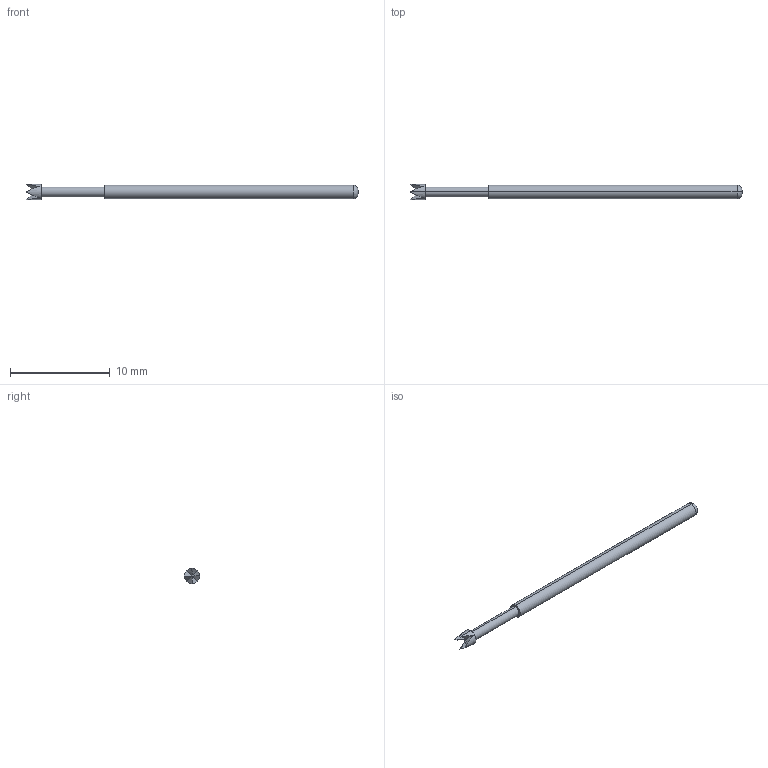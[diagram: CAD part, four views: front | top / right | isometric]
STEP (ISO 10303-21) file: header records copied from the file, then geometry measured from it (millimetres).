
FILE_DESCRIPTION (( 'STEP AP203' ), '1' );
FILE_NAME ('IP130B-1Q.STEP', '2014-08-22T05:49:36', ( '' ), ( '' ), 'SwSTEP 2.0', 'SolidWorks 2011', '' );
FILE_SCHEMA (( 'CONFIG_CONTROL_DESIGN' ));
Length unit declared in the file: millimetre
Products named in the file (1): IP130B-1Q
Bounding box: 33.27 x 1.52 x 1.52 mm (x, y, z)
Volume: 43.7 mm3; surface area: 140 mm2
Topology: 1 solids, 1 shells, 19 faces, 36 edges, 21 vertices
Faces by surface type: bspline 8, cylinder 6, plane 3, torus 2
Entity records: 649 total; most frequent: CARTESIAN_POINT 225, ORIENTED_EDGE 72, DIRECTION 62, EDGE_CURVE 36, AXIS2_PLACEMENT_3D 26, EDGE_LOOP 21, VERTEX_POINT 21, FACE_OUTER_BOUND 19
